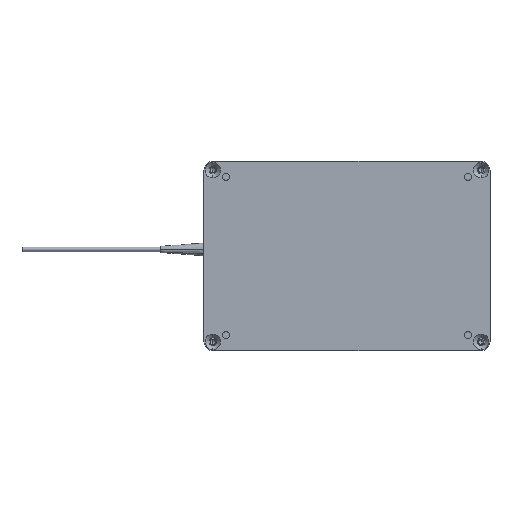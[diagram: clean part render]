
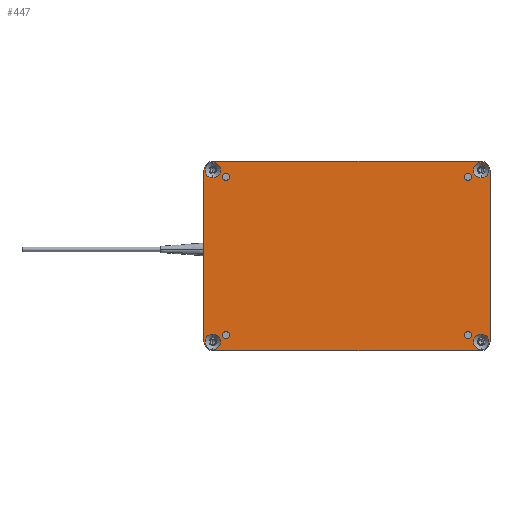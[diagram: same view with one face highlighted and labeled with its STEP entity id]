
A CAD part, front view. The second image highlights one B-rep face of the part: STEP entity #447.
In plain terms, the highlighted planar face has unit normal (0, -1, 0).
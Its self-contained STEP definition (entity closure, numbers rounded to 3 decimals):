
#447=ADVANCED_FACE('NONE',(#1460,#1461,#1462,#1463,#1464,#1465,#1466,#1467,
#1468),#621,.T.);
#621=PLANE('',#4020);
#861=LINE('',#5862,#1239);
#863=LINE('',#5865,#1241);
#864=LINE('',#5866,#1242);
#865=LINE('',#5867,#1243);
#1239=VECTOR('',#4677,1.);
#1241=VECTOR('',#4681,1.);
#1242=VECTOR('',#4682,1.);
#1243=VECTOR('',#4683,1.);
#1460=FACE_BOUND('',#1557,.T.);
#1461=FACE_BOUND('',#1558,.T.);
#1462=FACE_BOUND('',#1559,.T.);
#1463=FACE_BOUND('',#1560,.T.);
#1464=FACE_BOUND('',#1561,.T.);
#1465=FACE_BOUND('',#1562,.T.);
#1466=FACE_BOUND('',#1563,.T.);
#1467=FACE_BOUND('',#1564,.T.);
#1468=FACE_BOUND('',#1565,.T.);
#1557=EDGE_LOOP('',(#2037,#2038,#2039,#2040,#2041,#2042,#2043,#2044));
#1558=EDGE_LOOP('',(#2045,#2046));
#1559=EDGE_LOOP('',(#2047,#2048));
#1560=EDGE_LOOP('',(#2049,#2050));
#1561=EDGE_LOOP('',(#2051,#2052));
#1562=EDGE_LOOP('',(#2053,#2054));
#1563=EDGE_LOOP('',(#2055,#2056));
#1564=EDGE_LOOP('',(#2057,#2058));
#1565=EDGE_LOOP('',(#2059,#2060));
#2037=ORIENTED_EDGE('',*,*,#3405,.T.);
#2038=ORIENTED_EDGE('',*,*,#3279,.T.);
#2039=ORIENTED_EDGE('',*,*,#3407,.F.);
#2040=ORIENTED_EDGE('',*,*,#3273,.T.);
#2041=ORIENTED_EDGE('',*,*,#3408,.F.);
#2042=ORIENTED_EDGE('',*,*,#3270,.T.);
#2043=ORIENTED_EDGE('',*,*,#3409,.F.);
#2044=ORIENTED_EDGE('',*,*,#3276,.T.);
#2045=ORIENTED_EDGE('',*,*,#3302,.F.);
#2046=ORIENTED_EDGE('',*,*,#3410,.F.);
#2047=ORIENTED_EDGE('',*,*,#3296,.F.);
#2048=ORIENTED_EDGE('',*,*,#3411,.F.);
#2049=ORIENTED_EDGE('',*,*,#3290,.F.);
#2050=ORIENTED_EDGE('',*,*,#3412,.F.);
#2051=ORIENTED_EDGE('',*,*,#3284,.F.);
#2052=ORIENTED_EDGE('',*,*,#3413,.F.);
#2053=ORIENTED_EDGE('',*,*,#3268,.F.);
#2054=ORIENTED_EDGE('',*,*,#3414,.F.);
#2055=ORIENTED_EDGE('',*,*,#3265,.F.);
#2056=ORIENTED_EDGE('',*,*,#3415,.F.);
#2057=ORIENTED_EDGE('',*,*,#3262,.F.);
#2058=ORIENTED_EDGE('',*,*,#3416,.F.);
#2059=ORIENTED_EDGE('',*,*,#3259,.F.);
#2060=ORIENTED_EDGE('',*,*,#3417,.F.);
#2886=VERTEX_POINT('',#5566);
#2887=VERTEX_POINT('',#5568);
#2888=VERTEX_POINT('',#5572);
#2889=VERTEX_POINT('',#5574);
#2890=VERTEX_POINT('',#5578);
#2891=VERTEX_POINT('',#5580);
#2892=VERTEX_POINT('',#5584);
#2893=VERTEX_POINT('',#5586);
#2894=VERTEX_POINT('',#5590);
#2895=VERTEX_POINT('',#5592);
#2896=VERTEX_POINT('',#5596);
#2897=VERTEX_POINT('',#5598);
#2898=VERTEX_POINT('',#5602);
#2899=VERTEX_POINT('',#5604);
#2900=VERTEX_POINT('',#5608);
#2901=VERTEX_POINT('',#5610);
#2903=VERTEX_POINT('',#5615);
#2905=VERTEX_POINT('',#5619);
#2907=VERTEX_POINT('',#5627);
#2909=VERTEX_POINT('',#5631);
#2911=VERTEX_POINT('',#5639);
#2913=VERTEX_POINT('',#5643);
#2915=VERTEX_POINT('',#5651);
#2917=VERTEX_POINT('',#5655);
#3259=EDGE_CURVE('NONE',#2887,#2886,#3755,.T.);
#3262=EDGE_CURVE('NONE',#2889,#2888,#3756,.T.);
#3265=EDGE_CURVE('NONE',#2891,#2890,#3757,.T.);
#3268=EDGE_CURVE('NONE',#2893,#2892,#3758,.T.);
#3270=EDGE_CURVE('NONE',#2895,#2894,#3759,.T.);
#3273=EDGE_CURVE('NONE',#2897,#2896,#3760,.T.);
#3276=EDGE_CURVE('NONE',#2899,#2898,#3761,.T.);
#3279=EDGE_CURVE('NONE',#2901,#2900,#3762,.T.);
#3284=EDGE_CURVE('NONE',#2905,#2903,#3764,.T.);
#3290=EDGE_CURVE('NONE',#2909,#2907,#3766,.T.);
#3296=EDGE_CURVE('NONE',#2913,#2911,#3768,.T.);
#3302=EDGE_CURVE('NONE',#2917,#2915,#3770,.T.);
#3405=EDGE_CURVE('NONE',#2898,#2901,#861,.T.);
#3407=EDGE_CURVE('NONE',#2897,#2900,#863,.T.);
#3408=EDGE_CURVE('NONE',#2895,#2896,#864,.T.);
#3409=EDGE_CURVE('NONE',#2899,#2894,#865,.T.);
#3410=EDGE_CURVE('NONE',#2915,#2917,#3784,.T.);
#3411=EDGE_CURVE('NONE',#2911,#2913,#3785,.T.);
#3412=EDGE_CURVE('NONE',#2907,#2909,#3786,.T.);
#3413=EDGE_CURVE('NONE',#2903,#2905,#3787,.T.);
#3414=EDGE_CURVE('NONE',#2892,#2893,#3788,.T.);
#3415=EDGE_CURVE('NONE',#2890,#2891,#3789,.T.);
#3416=EDGE_CURVE('NONE',#2888,#2889,#3790,.T.);
#3417=EDGE_CURVE('NONE',#2886,#2887,#3791,.T.);
#3755=CIRCLE('',#3941,0.8);
#3756=CIRCLE('',#3943,0.8);
#3757=CIRCLE('',#3945,0.8);
#3758=CIRCLE('',#3947,0.8);
#3759=CIRCLE('',#3949,2.);
#3760=CIRCLE('',#3951,2.);
#3761=CIRCLE('',#3953,2.);
#3762=CIRCLE('',#3955,2.);
#3764=CIRCLE('',#3958,1.75);
#3766=CIRCLE('',#3962,1.75);
#3768=CIRCLE('',#3966,1.75);
#3770=CIRCLE('',#3970,1.75);
#3784=CIRCLE('',#4012,1.75);
#3785=CIRCLE('',#4013,1.75);
#3786=CIRCLE('',#4014,1.75);
#3787=CIRCLE('',#4015,1.75);
#3788=CIRCLE('',#4016,0.8);
#3789=CIRCLE('',#4017,0.8);
#3790=CIRCLE('',#4018,0.8);
#3791=CIRCLE('',#4019,0.8);
#3941=AXIS2_PLACEMENT_3D('',#5569,#4420,#4421);
#3943=AXIS2_PLACEMENT_3D('',#5575,#4426,#4427);
#3945=AXIS2_PLACEMENT_3D('',#5581,#4432,#4433);
#3947=AXIS2_PLACEMENT_3D('',#5587,#4438,#4439);
#3949=AXIS2_PLACEMENT_3D('',#5591,#4443,#4444);
#3951=AXIS2_PLACEMENT_3D('',#5597,#4449,#4450);
#3953=AXIS2_PLACEMENT_3D('',#5603,#4455,#4456);
#3955=AXIS2_PLACEMENT_3D('',#5609,#4461,#4462);
#3958=AXIS2_PLACEMENT_3D('',#5620,#4470,#4471);
#3962=AXIS2_PLACEMENT_3D('',#5632,#4482,#4483);
#3966=AXIS2_PLACEMENT_3D('',#5644,#4494,#4495);
#3970=AXIS2_PLACEMENT_3D('',#5656,#4506,#4507);
#4012=AXIS2_PLACEMENT_3D('',#5868,#4684,#4685);
#4013=AXIS2_PLACEMENT_3D('',#5869,#4686,#4687);
#4014=AXIS2_PLACEMENT_3D('',#5870,#4688,#4689);
#4015=AXIS2_PLACEMENT_3D('',#5871,#4690,#4691);
#4016=AXIS2_PLACEMENT_3D('',#5872,#4692,#4693);
#4017=AXIS2_PLACEMENT_3D('',#5873,#4694,#4695);
#4018=AXIS2_PLACEMENT_3D('',#5874,#4696,#4697);
#4019=AXIS2_PLACEMENT_3D('',#5875,#4698,#4699);
#4020=AXIS2_PLACEMENT_3D('',#5876,#4700,#4701);
#4420=DIRECTION('',(0.,-1.,0.));
#4421=DIRECTION('',(0.,0.,-1.));
#4426=DIRECTION('',(0.,-1.,0.));
#4427=DIRECTION('',(0.,0.,-1.));
#4432=DIRECTION('',(0.,-1.,0.));
#4433=DIRECTION('',(0.,0.,-1.));
#4438=DIRECTION('',(0.,-1.,0.));
#4439=DIRECTION('',(0.,0.,-1.));
#4443=DIRECTION('',(0.,-1.,0.));
#4444=DIRECTION('',(0.,0.,-1.));
#4449=DIRECTION('',(0.,-1.,0.));
#4450=DIRECTION('',(0.,0.,-1.));
#4455=DIRECTION('',(0.,-1.,0.));
#4456=DIRECTION('',(0.,0.,-1.));
#4461=DIRECTION('',(0.,-1.,0.));
#4462=DIRECTION('',(0.,0.,-1.));
#4470=DIRECTION('',(0.,-1.,0.));
#4471=DIRECTION('',(0.,0.,-1.));
#4482=DIRECTION('',(0.,-1.,0.));
#4483=DIRECTION('',(0.,0.,-1.));
#4494=DIRECTION('',(0.,-1.,0.));
#4495=DIRECTION('',(0.,0.,-1.));
#4506=DIRECTION('',(0.,-1.,0.));
#4507=DIRECTION('',(0.,0.,-1.));
#4677=DIRECTION('',(1.,0.,0.));
#4681=DIRECTION('',(0.,0.,-1.));
#4682=DIRECTION('',(1.,0.,0.));
#4683=DIRECTION('',(0.,0.,1.));
#4684=DIRECTION('',(0.,-1.,0.));
#4685=DIRECTION('',(0.,0.,-1.));
#4686=DIRECTION('',(0.,-1.,0.));
#4687=DIRECTION('',(0.,0.,-1.));
#4688=DIRECTION('',(0.,-1.,0.));
#4689=DIRECTION('',(0.,0.,-1.));
#4690=DIRECTION('',(0.,-1.,0.));
#4691=DIRECTION('',(0.,0.,-1.));
#4692=DIRECTION('',(0.,-1.,0.));
#4693=DIRECTION('',(0.,0.,-1.));
#4694=DIRECTION('',(0.,-1.,0.));
#4695=DIRECTION('',(0.,0.,-1.));
#4696=DIRECTION('',(0.,-1.,0.));
#4697=DIRECTION('',(0.,0.,-1.));
#4698=DIRECTION('',(0.,-1.,0.));
#4699=DIRECTION('',(0.,0.,-1.));
#4700=DIRECTION('',(0.,-1.,0.));
#4701=DIRECTION('',(0.,0.,-1.));
#5566=CARTESIAN_POINT('',(-27.5,0.,17.3));
#5568=CARTESIAN_POINT('',(-27.5,0.,15.7));
#5569=CARTESIAN_POINT('',(-27.5,0.,16.5));
#5572=CARTESIAN_POINT('',(27.5,0.,-18.7));
#5574=CARTESIAN_POINT('',(27.5,0.,-20.3));
#5575=CARTESIAN_POINT('',(27.5,0.,-19.5));
#5578=CARTESIAN_POINT('',(27.5,0.,17.3));
#5580=CARTESIAN_POINT('',(27.5,0.,15.7));
#5581=CARTESIAN_POINT('',(27.5,0.,16.5));
#5584=CARTESIAN_POINT('',(-27.5,0.,-18.7));
#5586=CARTESIAN_POINT('',(-27.5,0.,-20.3));
#5587=CARTESIAN_POINT('',(-27.5,0.,-19.5));
#5590=CARTESIAN_POINT('',(-32.5,0.,18.));
#5591=CARTESIAN_POINT('',(-30.5,0.,18.));
#5592=CARTESIAN_POINT('',(-30.5,0.,20.));
#5596=CARTESIAN_POINT('',(30.5,0.,20.));
#5597=CARTESIAN_POINT('',(30.5,0.,18.));
#5598=CARTESIAN_POINT('',(32.5,0.,18.));
#5602=CARTESIAN_POINT('',(-30.5,0.,-23.));
#5603=CARTESIAN_POINT('',(-30.5,0.,-21.));
#5604=CARTESIAN_POINT('',(-32.5,0.,-21.));
#5608=CARTESIAN_POINT('',(32.5,0.,-21.));
#5609=CARTESIAN_POINT('',(30.5,0.,-21.));
#5610=CARTESIAN_POINT('',(30.5,0.,-23.));
#5615=CARTESIAN_POINT('',(30.5,0.,-19.25));
#5619=CARTESIAN_POINT('',(30.5,0.,-22.75));
#5620=CARTESIAN_POINT('',(30.5,0.,-21.));
#5627=CARTESIAN_POINT('',(30.5,0.,19.75));
#5631=CARTESIAN_POINT('',(30.5,0.,16.25));
#5632=CARTESIAN_POINT('',(30.5,0.,18.));
#5639=CARTESIAN_POINT('',(-30.5,0.,19.75));
#5643=CARTESIAN_POINT('',(-30.5,0.,16.25));
#5644=CARTESIAN_POINT('',(-30.5,0.,18.));
#5651=CARTESIAN_POINT('',(-30.5,0.,-19.25));
#5655=CARTESIAN_POINT('',(-30.5,0.,-22.75));
#5656=CARTESIAN_POINT('',(-30.5,0.,-21.));
#5862=CARTESIAN_POINT('',(-32.5,0.,-23.));
#5865=CARTESIAN_POINT('',(32.5,0.,20.));
#5866=CARTESIAN_POINT('',(-32.5,0.,20.));
#5867=CARTESIAN_POINT('',(-32.5,0.,20.));
#5868=CARTESIAN_POINT('',(-30.5,0.,-21.));
#5869=CARTESIAN_POINT('',(-30.5,0.,18.));
#5870=CARTESIAN_POINT('',(30.5,0.,18.));
#5871=CARTESIAN_POINT('',(30.5,0.,-21.));
#5872=CARTESIAN_POINT('',(-27.5,0.,-19.5));
#5873=CARTESIAN_POINT('',(27.5,0.,16.5));
#5874=CARTESIAN_POINT('',(27.5,0.,-19.5));
#5875=CARTESIAN_POINT('',(-27.5,0.,16.5));
#5876=CARTESIAN_POINT('',(0.,0.,0.));
